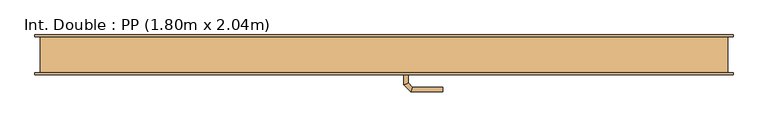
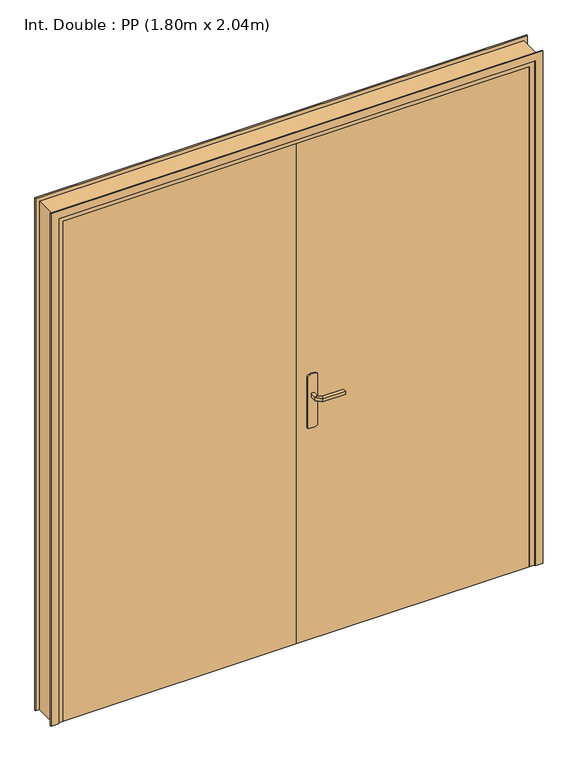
"""IFC4 building model written with IfcOpenShell, lengths in millimetres: door geometry, Int. Double : PP (1.80m x 2.04m)."""

from ifc_helpers import new_model, si_unit, point, frame, frame_2d, origin, origin_with_axes, place, context, project, spatial, polyline, circle_curve, ellipse_curve, trimmed, segment, composite_curve, outline, extrude, faceted_brep, source, transform, mapped, element, save
from ifc_brep_helpers import plane_surface, cylinder_surface, advanced_brep


def int_double_pp_1_80m_x_2_04m_d59a1f46(model_context):
    return source(origin(), model_context, "Body", "SolidModel", [
        extrude(outline(polyline([(-35.0, -9.0), (-35.0, -49.0), (-935.0, -49.0), (-935.0, -9.0), (-35.0, -9.0)])), origin_with_axes(), (0.0, 0.0, 1.0), 2040.0),
        extrude(outline(composite_curve([segment(trimmed(circle_curve(frame_2d((904.6410162, 25.0)), 40.0), [point((870.0, 5.0))], [point((870.0, 45.0))], False, "CARTESIAN"), True, "CONTINUOUS"), segment(polyline([(870.0, 45.0), (1080.0, 45.0)]), True, "CONTINUOUS"), segment(trimmed(circle_curve(frame_2d((1045.3589838, 25.0)), 40.0), [point((1080.0, 45.0))], [point((1080.0, 5.0))], False, "CARTESIAN"), True, "CONTINUOUS"), segment(polyline([(1080.0, 5.0), (870.0, 5.0)]), True, "CONTINUOUS")], self_intersect=False)), frame((0.0, -54.0, 0.0), z_axis=(0.0, 1.0, 0.0), x_axis=(0.0, 0.0, 1.0)), (0.0, 0.0, 1.0), 5.0),
        extrude(outline(composite_curve([segment(trimmed(circle_curve(frame_2d((1045.3589838, 25.0)), 40.0), [point((1080.0, 45.0))], [point((1080.0, 5.0))], False, "CARTESIAN"), True, "CONTINUOUS"), segment(polyline([(1080.0, 5.0), (870.0, 5.0)]), True, "CONTINUOUS"), segment(trimmed(circle_curve(frame_2d((904.6410162, 25.0)), 40.0), [point((870.0, 5.0))], [point((870.0, 45.0))], False, "CARTESIAN"), True, "CONTINUOUS"), segment(polyline([(870.0, 45.0), (1080.0, 45.0)]), True, "CONTINUOUS")], self_intersect=False)), frame((0.0, -9.0, 0.0), z_axis=(0.0, 1.0, 0.0), x_axis=(0.0, 0.0, 1.0)), (0.0, 0.0, 1.0), 5.0),
        advanced_brep(
        [(19.0, -54.0, 1007.0), (31.0, -54.0, 1007.0), (31.0, -54.0, 993.0), (19.0, -54.0, 993.0), (19.0, -81.6509507, 1007.0), (31.0, -76.680388, 1007.0), (31.0, -76.680388, 993.0), (19.0, -81.6509507, 993.0), (37.37721, -100.0281607, 1007.0), (42.3477727, -88.0281607, 1007.0), (42.3477727, -88.0281607, 993.0), (37.37721, -100.0281607, 993.0), (125.0186406, -100.0281607, 1007.0), (125.0186406, -100.0281607, 993.0), (125.0186406, -88.0281607, 993.0), (125.0186406, -88.0281607, 1007.0)],
        [
            (0, 1, circle_curve(frame((25.0, -54.0, 986.9542278), z_axis=(0.0, 1.0, 0.0), x_axis=(1.0, 0.0, 0.0)), 20.9244589)),
            (1, 2),
            (2, 3, circle_curve(frame((25.0, -54.0, 1013.0457722), z_axis=(0.0, 1.0, 0.0), x_axis=(1.0, 0.0, 0.0)), 20.9244589)),
            (3, 0),
            (0, 4),
            (4, 5, ellipse_curve(frame((25.0, -79.1656693, 986.9542278), z_axis=(-0.3826834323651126, 0.9238795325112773, 0.0), x_axis=(0.9238795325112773, 0.38268343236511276, 0.0)), 22.6484711, 20.9244589)),
            (5, 1),
            (5, 6),
            (6, 2),
            (6, 7, ellipse_curve(frame((25.0, -79.1656693, 1013.0457722), z_axis=(-0.3826834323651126, 0.9238795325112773, 0.0), x_axis=(0.9238795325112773, 0.38268343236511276, 0.0)), 22.6484711, 20.9244589)),
            (7, 3),
            (7, 4),
            (4, 8),
            (8, 9, ellipse_curve(frame((39.8624914, -94.0281607, 986.9542278), z_axis=(-0.9238795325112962, 0.38268343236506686, 0.0), x_axis=(0.3826834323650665, 0.9238795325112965, 0.0)), 22.6484711, 20.9244589)),
            (9, 5),
            (9, 10),
            (10, 6),
            (10, 11, ellipse_curve(frame((39.8624914, -94.0281607, 1013.0457722), z_axis=(-0.9238795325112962, 0.38268343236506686, 0.0), x_axis=(0.3826834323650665, 0.9238795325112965, 0.0)), 22.6484711, 20.9244589)),
            (11, 7),
            (11, 8),
            (12, 13),
            (13, 14, circle_curve(frame((125.0186406, -94.0281607, 1013.0457722), z_axis=(1.0, 0.0, 0.0), x_axis=(0.0, 1.0, 0.0)), 20.9244589)),
            (14, 15),
            (15, 12, circle_curve(frame((125.0186406, -94.0281607, 986.9542278), z_axis=(1.0, 0.0, 0.0), x_axis=(0.0, 1.0, 0.0)), 20.9244589)),
            (8, 12),
            (15, 9),
            (14, 10),
            (13, 11),
        ],
        [
            plane_surface(frame((15.7804555, -54.0, 1000.0), z_axis=(0.0, 1.0, 0.0), x_axis=(0.0, 0.0, -1.0))),
            cylinder_surface(frame((25.0, -54.0, 986.9542278), z_axis=(0.0, 1.0, 0.0), x_axis=(1.0, 0.0, 0.0)), 20.9244589),
            plane_surface(frame((31.0, -54.0, 1007.0), z_axis=(1.0, 0.0, 0.0), x_axis=(0.0, -1.0, 0.0))),
            cylinder_surface(frame((25.0, -54.0, 1013.0457722), z_axis=(0.0, 1.0, 0.0), x_axis=(1.0, 0.0, 0.0)), 20.9244589),
            plane_surface(frame((19.0, -54.0, 993.0), z_axis=(-1.0, 0.0, 0.0), x_axis=(0.0, -1.0, 0.0))),
            cylinder_surface(frame((25.0, -79.1656693, 986.9542278), z_axis=(-0.7071067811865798, 0.7071067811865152, 0.0), x_axis=(0.7071067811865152, 0.7071067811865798, 0.0)), 20.9244589),
            plane_surface(frame((31.0, -76.680388, 1007.0), z_axis=(0.7071067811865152, 0.7071067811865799, 0.0), x_axis=(0.7071067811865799, -0.7071067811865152, 0.0))),
            cylinder_surface(frame((25.0, -79.1656693, 1013.0457722), z_axis=(-0.7071067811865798, 0.7071067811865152, 0.0), x_axis=(0.7071067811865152, 0.7071067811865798, 0.0)), 20.9244589),
            plane_surface(frame((19.0, -81.6509507, 993.0), z_axis=(-0.7071067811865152, -0.7071067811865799, 0.0), x_axis=(0.7071067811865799, -0.7071067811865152, 0.0))),
            plane_surface(frame((125.0186406, -94.0281607, 990.7804555), z_axis=(1.0, 0.0, 0.0), x_axis=(0.0, 1.0, 0.0))),
            cylinder_surface(frame((39.8624914, -94.0281607, 986.9542278), z_axis=(-1.0, 0.0, 0.0), x_axis=(0.0, 1.0, 0.0)), 20.9244589),
            plane_surface(frame((42.3477727, -88.0281607, 1007.0), z_axis=(0.0, 1.0, 0.0), x_axis=(1.0, 0.0, 0.0))),
            cylinder_surface(frame((39.8624914, -94.0281607, 1013.0457722), z_axis=(-1.0, 0.0, 0.0), x_axis=(0.0, 1.0, 0.0)), 20.9244589),
            plane_surface(frame((37.37721, -100.0281607, 993.0), z_axis=(0.0, -1.0, 0.0), x_axis=(1.0, 0.0, 0.0))),
        ],
        [
            (0, [[1, 2, 3, 4]]),
            (1, [[-1, 5, 6, 7]]),
            (2, [[-2, -7, 8, 9]]),
            (3, [[-3, -9, 10, 11]]),
            (4, [[-4, -11, 12, -5]]),
            (5, [[-6, 13, 14, 15]]),
            (6, [[-8, -15, 16, 17]]),
            (7, [[-10, -17, 18, 19]]),
            (8, [[-12, -19, 20, -13]]),
            (9, [[21, 22, 23, 24]]),
            (10, [[-14, 25, -24, 26]]),
            (11, [[-16, -26, -23, 27]]),
            (12, [[-18, -27, -22, 28]]),
            (13, [[-20, -28, -21, -25]]),
        ],
    ),
        advanced_brep(
        [(31.0, -4.0, 993.0), (31.0, -4.0, 1007.0), (19.0, -4.0, 1007.0), (19.0, -4.0, 993.0), (31.0, 18.4852045, 993.0), (31.0, 18.4852045, 1007.0), (19.0, 23.4557673, 1007.0), (19.0, 23.4557673, 993.0), (42.4852814, 29.9704859, 993.0), (42.4852814, 29.9704859, 1007.0), (37.5147186, 41.9704859, 1007.0), (37.5147186, 41.9704859, 993.0), (125.0457837, 29.9704859, 993.0), (125.0457837, 41.9704859, 993.0), (125.0457837, 41.9704859, 1007.0), (125.0457837, 29.9704859, 1007.0)],
        [
            (0, 1),
            (1, 2, circle_curve(frame((25.0, -4.0, 986.9542278), z_axis=(0.0, -1.0, 0.0), x_axis=(-1.0, 0.0, 0.0)), 20.9244589)),
            (2, 3),
            (3, 0, circle_curve(frame((25.0, -4.0, 1013.0457722), z_axis=(0.0, -1.0, 0.0), x_axis=(-1.0, 0.0, 0.0)), 20.9244589)),
            (0, 4),
            (4, 5),
            (5, 1),
            (5, 6, ellipse_curve(frame((25.0, 20.9704859, 986.9542278), z_axis=(-0.3826834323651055, -0.9238795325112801, 0.0), x_axis=(0.92387953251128, -0.38268343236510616, 0.0)), 22.6484711, 20.9244589)),
            (6, 2),
            (6, 7),
            (7, 3),
            (7, 4, ellipse_curve(frame((25.0, 20.9704859, 1013.0457722), z_axis=(-0.3826834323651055, -0.9238795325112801, 0.0), x_axis=(0.92387953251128, -0.38268343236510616, 0.0)), 22.6484711, 20.9244589)),
            (4, 8),
            (8, 9),
            (9, 5),
            (9, 10, ellipse_curve(frame((40.0, 35.9704859, 986.9542278), z_axis=(-0.9238795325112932, -0.382683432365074, 0.0), x_axis=(0.3826834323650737, -0.9238795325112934, 0.0)), 22.6484711, 20.9244589)),
            (10, 6),
            (10, 11),
            (11, 7),
            (11, 8, ellipse_curve(frame((40.0, 35.9704859, 1013.0457722), z_axis=(-0.9238795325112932, -0.382683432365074, 0.0), x_axis=(0.3826834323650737, -0.9238795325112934, 0.0)), 22.6484711, 20.9244589)),
            (12, 13, circle_curve(frame((125.0457837, 35.9704859, 1013.0457722), z_axis=(1.0, 0.0, 0.0), x_axis=(0.0, 1.0, 0.0)), 20.9244589)),
            (13, 14),
            (14, 15, circle_curve(frame((125.0457837, 35.9704859, 986.9542278), z_axis=(1.0, 0.0, 0.0), x_axis=(0.0, 1.0, 0.0)), 20.9244589)),
            (15, 12),
            (8, 12),
            (15, 9),
            (14, 10),
            (13, 11),
        ],
        [
            plane_surface(frame((15.7804555, -4.0, 1000.0), z_axis=(0.0, -1.0, 0.0), x_axis=(0.0, 0.0, 1.0))),
            plane_surface(frame((31.0, -4.0, 993.0), z_axis=(1.0, 0.0, 0.0), x_axis=(0.0, 1.0, 0.0))),
            cylinder_surface(frame((25.0, -4.0, 986.9542278), z_axis=(0.0, -1.0, 0.0), x_axis=(-1.0, 0.0, 0.0)), 20.9244589),
            plane_surface(frame((19.0, -4.0, 1007.0), z_axis=(-1.0, 0.0, 0.0), x_axis=(0.0, 1.0, 0.0))),
            cylinder_surface(frame((25.0, -4.0, 1013.0457722), z_axis=(0.0, -1.0, 0.0), x_axis=(-1.0, 0.0, 0.0)), 20.9244589),
            plane_surface(frame((31.0, 18.4852045, 993.0), z_axis=(0.7071067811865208, -0.7071067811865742, 0.0), x_axis=(0.7071067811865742, 0.7071067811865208, 0.0))),
            cylinder_surface(frame((25.0, 20.9704859, 986.9542278), z_axis=(-0.7071067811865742, -0.7071067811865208, 0.0), x_axis=(-0.7071067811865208, 0.7071067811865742, 0.0)), 20.9244589),
            plane_surface(frame((19.0, 23.4557673, 1007.0), z_axis=(-0.7071067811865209, 0.7071067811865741, 0.0), x_axis=(0.7071067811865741, 0.7071067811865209, 0.0))),
            cylinder_surface(frame((25.0, 20.9704859, 1013.0457722), z_axis=(-0.7071067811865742, -0.7071067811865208, 0.0), x_axis=(-0.7071067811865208, 0.7071067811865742, 0.0)), 20.9244589),
            plane_surface(frame((125.0457837, 35.9704859, 990.7804555), z_axis=(1.0, 0.0, 0.0), x_axis=(0.0, 1.0, 0.0))),
            plane_surface(frame((42.4852814, 29.9704859, 993.0), z_axis=(0.0, -1.0, 0.0), x_axis=(1.0, 0.0, 0.0))),
            cylinder_surface(frame((40.0, 35.9704859, 986.9542278), z_axis=(-1.0, 0.0, 0.0), x_axis=(0.0, 1.0, 0.0)), 20.9244589),
            plane_surface(frame((37.5147186, 41.9704859, 1007.0), z_axis=(0.0, 1.0, 0.0), x_axis=(1.0, 0.0, 0.0))),
            cylinder_surface(frame((40.0, 35.9704859, 1013.0457722), z_axis=(-1.0, 0.0, 0.0), x_axis=(0.0, 1.0, 0.0)), 20.9244589),
        ],
        [
            (0, [[1, 2, 3, 4]]),
            (1, [[-1, 5, 6, 7]]),
            (2, [[-2, -7, 8, 9]]),
            (3, [[-3, -9, 10, 11]]),
            (4, [[-4, -11, 12, -5]]),
            (5, [[-6, 13, 14, 15]]),
            (6, [[-8, -15, 16, 17]]),
            (7, [[-10, -17, 18, 19]]),
            (8, [[-12, -19, 20, -13]]),
            (9, [[21, 22, 23, 24]]),
            (10, [[-14, 25, -24, 26]]),
            (11, [[-16, -26, -23, 27]]),
            (12, [[-18, -27, -22, 28]]),
            (13, [[-20, -28, -21, -25]]),
        ],
    ),
        extrude(outline(polyline([(-35.0, -9.0), (865.0, -9.0), (865.0, -49.0), (-35.0, -49.0), (-35.0, -9.0)])), origin_with_axes(), (0.0, 0.0, 1.0), 2040.0),
        faceted_brep([(-970.0, -49.0, 0.0), (-970.0, 49.0, 0.0), (-920.0, 49.0, 0.0), (-920.0, -9.0, 0.0), (-935.0, -9.0, 0.0), (-935.0, -49.0, 0.0), (-970.0, -49.0, 2075.0), (-970.0, 49.0, 2075.0), (900.0, 49.0, 2075.0), (900.0, 49.0, 0.0), (850.0, 49.0, 0.0), (850.0, 49.0, 2025.0), (-920.0, 49.0, 2025.0), (-920.0, -9.0, 2025.0), (850.0, -9.0, 2025.0), (850.0, -9.0, 0.0), (865.0, -9.0, 0.0), (865.0, -9.0, 2040.0), (-935.0, -9.0, 2040.0), (-935.0, -49.0, 2040.0), (865.0, -49.0, 2040.0), (865.0, -49.0, 0.0), (900.0, -49.0, 0.0), (900.0, -49.0, 2075.0)], [[[0, 1, 2, 3, 4, 5]], [[1, 0, 6, 7]], [[2, 1, 7, 8, 9, 10, 11, 12]], [[3, 2, 12, 13]], [[4, 3, 13, 14, 15, 16, 17, 18]], [[5, 4, 18, 19]], [[0, 5, 19, 20, 21, 22, 23, 6]], [[8, 23, 22, 9]], [[22, 21, 16, 15, 10, 9]], [[14, 11, 10, 15]], [[20, 17, 16, 21]], [[7, 6, 23, 8]], [[13, 12, 11, 14]], [[19, 18, 17, 20]]]),
        extrude(outline(polyline([(0.0, -985.0), (0.0, -955.0), (2060.0, -955.0), (2060.0, 885.0), (0.0, 885.0), (0.0, 915.0), (2090.0, 915.0), (2090.0, -985.0), (0.0, -985.0)])), frame((0.0, 49.0, 0.0), z_axis=(0.0, 1.0, 0.0), x_axis=(0.0, 0.0, 1.0)), (0.0, 0.0, 1.0), 5.0),
        extrude(outline(polyline([(0.0, -985.0), (0.0, -955.0), (2060.0, -955.0), (2060.0, 885.0), (0.0, 885.0), (0.0, 915.0), (2090.0, 915.0), (2090.0, -985.0), (0.0, -985.0)])), frame((0.0, -54.0, 0.0), z_axis=(0.0, 1.0, 0.0), x_axis=(0.0, 0.0, 1.0)), (0.0, 0.0, 1.0), 5.0),
    ])


if __name__ == "__main__":
    model = new_model("IFC4")
    model_context = context("Model", 3, world=origin())
    ifc_project = project(units=[si_unit("LENGTHUNIT", "METRE", prefix="MILLI")], contexts=[model_context])
    site = spatial("IfcSite", under=ifc_project)
    building = spatial("IfcBuilding", under=site)
    placement = place(None, origin())
    int_double_pp_1_80m_x_2_04m_shape = int_double_pp_1_80m_x_2_04m_d59a1f46(model_context)
    element("IfcDoor", 1, ObjectType="Int. Double : PP (1.80m x 2.04m)", at=placement, inside=building, context=model_context, shape_type="MappedRepresentation", body=[
        mapped(int_double_pp_1_80m_x_2_04m_shape, transform((0.0, 0.0, 0.0), x_axis=(1.0, 0.0, 0.0), y_axis=(0.0, 1.0, 0.0), z_axis=(0.0, 0.0, 1.0))),
    ])
    save(model, "model.ifc")
